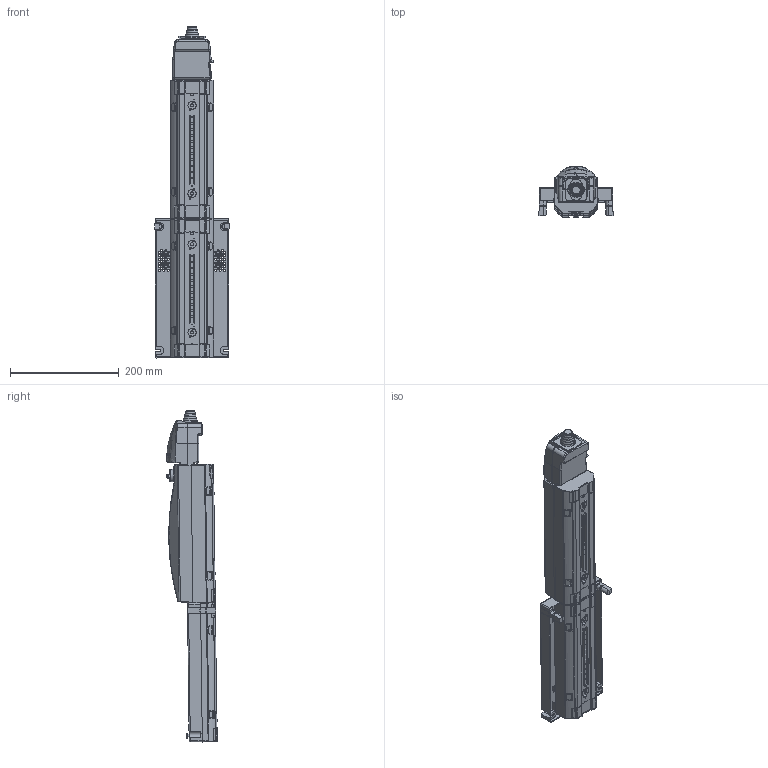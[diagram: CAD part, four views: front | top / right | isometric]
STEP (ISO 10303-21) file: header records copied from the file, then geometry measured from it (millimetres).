
FILE_DESCRIPTION(/* description */ ('Unknown'),/* implementation_level */ '2;1');
FILE_NAME(/* name */ 'OBO',/* time_stamp */ '2026-08-17T10:04:31+02:00',/* author */ ('Unknown'),/* organization */ ('Unknown'),/* preprocessor_version */ 'ST-DEVELOPER v20',/* originating_system */ 'Solid Edge',/* authorisation */ 'Unknown');
FILE_SCHEMA (('CONFIG_CONTROL_DESIGN'));
Products named in the file (10): OBO; bak smal cover_04 dicht; bak smal onder 2_07 dicht; invoerrubber dicht; knop dummy; meterbord klein dummy; steun dummy; schuif_02 dummy; Stekker bovenkant 2 dicht
Assembly tree (11 placements, depth 2):
  OBO
    OBO
    bak smal cover_04 dicht
    bak smal onder 2_07 dicht  x2
    invoerrubber dicht
    knop dummy
    meterbord klein dummy
    steun dummy  x2
    schuif_02 dummy
    Stekker bovenkant 2 dicht
Bounding box: 136.09 x 92.92 x 609.69 mm (x, y, z)
Volume: 1765364 mm3; surface area: 376050.3 mm2
Topology: 11 solids, 11 shells, 2829 faces, 7654 edges, 4926 vertices
Faces by surface type: plane 1346, cylinder 783, bspline 324, cone 175, torus 148, sphere 53
Full cylindrical faces by diameter (mm): 5.5 x1, 9 x1, 19 x1
Entity records: 91670 total; most frequent: CARTESIAN_POINT 34267, ORIENTED_EDGE 13162, DIRECTION 9838, EDGE_CURVE 6581, VERTEX_POINT 4238, AXIS2_PLACEMENT_3D 3287, LINE 3264, VECTOR 3264
